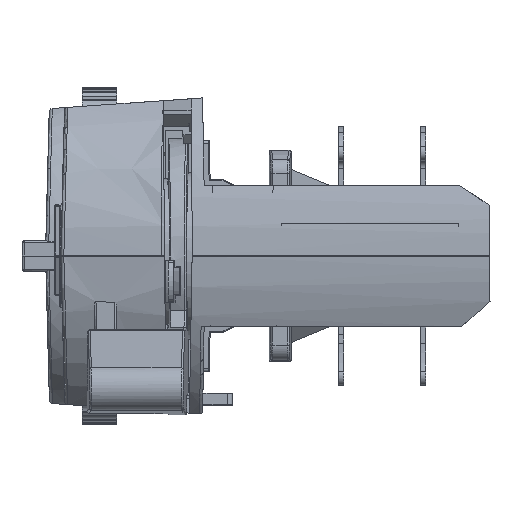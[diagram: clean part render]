
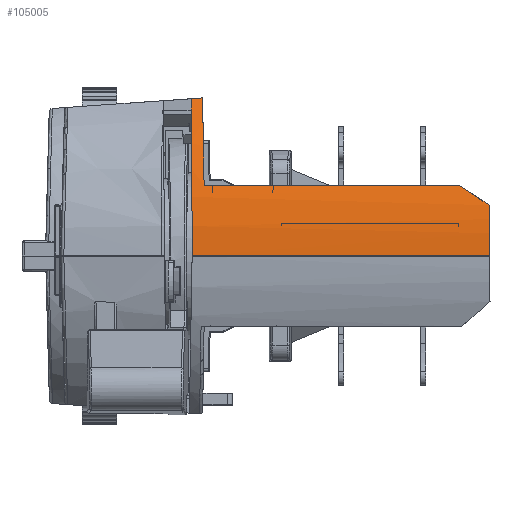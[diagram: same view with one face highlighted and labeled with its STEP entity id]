
A CAD part, left-side view. The second image highlights one B-rep face of the part: STEP entity #105005.
In plain terms, the highlighted cylindrical face has radius 20 mm (diameter 40 mm), a partial arc.
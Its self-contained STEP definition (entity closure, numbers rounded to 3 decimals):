
#101628=CARTESIAN_POINT('',(-124.6,-20.95,
0.));
#101629=CARTESIAN_POINT('',(-124.6,-20.945,
0.563));
#101630=CARTESIAN_POINT('',(-124.553,-20.935,
1.684));
#101631=CARTESIAN_POINT('',(-124.34,-20.921,
3.358));
#101632=CARTESIAN_POINT('',(-124.106,-20.911,
4.455));
#101633=CARTESIAN_POINT('',(-123.965,-20.906,
5.));
#101647=CARTESIAN_POINT('',(-117.264,8.435,
15.48));
#101648=CARTESIAN_POINT('',(-117.232,8.057,
15.506));
#101649=CARTESIAN_POINT('',(-117.199,7.678,
15.533));
#101650=CARTESIAN_POINT('',(-117.167,7.299,
15.559));
#101652=CARTESIAN_POINT('',(-117.167,7.299,
15.559));
#101653=CARTESIAN_POINT('',(-117.866,7.29,
14.994));
#101654=CARTESIAN_POINT('',(-119.176,7.268,
13.782));
#101655=CARTESIAN_POINT('',(-120.89,7.232,
11.707));
#101656=CARTESIAN_POINT('',(-122.309,7.192,
9.421));
#101657=CARTESIAN_POINT('',(-123.041,7.164,
7.793));
#101658=CARTESIAN_POINT('',(-123.354,7.149,
6.95));
#101660=DIRECTION('',(0.,-1.,0.));
#101661=VECTOR('',#101660,25.113);
#101662=CARTESIAN_POINT('',(-123.354,7.149,
6.95));
#101663=LINE('',#101662,#101661);
#101664=CARTESIAN_POINT('',(-123.354,-17.964,
6.95));
#101665=CARTESIAN_POINT('',(-123.593,-18.94,
6.303));
#101666=CARTESIAN_POINT('',(-123.796,-19.921,
5.653));
#101667=CARTESIAN_POINT('',(-123.965,-20.906,
5.));
#101669=DIRECTION('',(0.,1.,0.));
#101670=VECTOR('',#101669,29.25);
#101671=CARTESIAN_POINT('',(-124.6,-20.95,
0.));
#101672=LINE('',#101671,#101670);
#101722=CARTESIAN_POINT('',(-117.264,8.435,
15.48));
#101723=CARTESIAN_POINT('',(-117.92,8.43,
14.943));
#101724=CARTESIAN_POINT('',(-119.152,8.42,
13.797));
#101725=CARTESIAN_POINT('',(-120.778,8.403,
11.85));
#101726=CARTESIAN_POINT('',(-122.143,8.385,
9.716));
#101727=CARTESIAN_POINT('',(-123.228,8.365,
7.425));
#101728=CARTESIAN_POINT('',(-124.016,8.344,
5.018));
#101729=CARTESIAN_POINT('',(-124.493,8.322,
2.527));
#101730=CARTESIAN_POINT('',(-124.6,8.307,
0.847));
#101731=CARTESIAN_POINT('',(-124.6,8.3,
0.));
#103264=CARTESIAN_POINT('',(-123.354,7.149,
6.95));
#103265=VERTEX_POINT('',#103264);
#103266=VERTEX_POINT('',#101652);
#103336=CARTESIAN_POINT('',(-123.354,-17.964,
6.95));
#103337=VERTEX_POINT('',#103336);
#103504=CARTESIAN_POINT('',(-124.6,8.3,
0.));
#103505=VERTEX_POINT('',#103504);
#103506=CARTESIAN_POINT('',(-124.6,-20.95,
0.));
#103507=VERTEX_POINT('',#103506);
#103545=VERTEX_POINT('',#101633);
#103546=VERTEX_POINT('',#101722);
#104988=CARTESIAN_POINT('',(-104.6,14.8,0.));
#104989=DIRECTION('',(0.,-1.,0.));
#104990=DIRECTION('',(1.,0.,0.));
#104991=AXIS2_PLACEMENT_3D('',#104988,#104989,#104990);
#104992=CYLINDRICAL_SURFACE('',#104991,20.);
#104994=ORIENTED_EDGE('',*,*,#104993,.F.);
#104996=ORIENTED_EDGE('',*,*,#104995,.T.);
#104997=ORIENTED_EDGE('',*,*,#104053,.T.);
#104998=ORIENTED_EDGE('',*,*,#104180,.T.);
#105000=ORIENTED_EDGE('',*,*,#104999,.T.);
#105001=ORIENTED_EDGE('',*,*,#104979,.F.);
#105002=ORIENTED_EDGE('',*,*,#104829,.T.);
#105003=EDGE_LOOP('',(#104994,#104996,#104997,#104998,#105000,#105001,#105002));
#105004=FACE_OUTER_BOUND('',#105003,.F.);
#105005=ADVANCED_FACE('',(#105004),#104992,.T.);
#101634=B_SPLINE_CURVE_WITH_KNOTS('',3,(#101628,#101629,#101630,#101631,#101632,
#101633),.UNSPECIFIED.,.F.,.F.,(4,1,1,4),(0.,0.333,
0.667,1.),.UNSPECIFIED.);
#101651=B_SPLINE_CURVE_WITH_KNOTS('',3,(#101647,#101648,#101649,#101650),
.UNSPECIFIED.,.F.,.F.,(4,4),(0.,1.),.UNSPECIFIED.);
#101659=B_SPLINE_CURVE_WITH_KNOTS('',3,(#101652,#101653,#101654,#101655,#101656,
#101657,#101658),.UNSPECIFIED.,.F.,.F.,(4,1,1,1,4),(0.,0.25,0.5,0.75,
1.),.UNSPECIFIED.);
#101668=B_SPLINE_CURVE_WITH_KNOTS('',3,(#101664,#101665,#101666,#101667),
.UNSPECIFIED.,.F.,.F.,(4,4),(0.,1.),.UNSPECIFIED.);
#101732=B_SPLINE_CURVE_WITH_KNOTS('',3,(#101722,#101723,#101724,#101725,#101726,
#101727,#101728,#101729,#101730,#101731),.UNSPECIFIED.,.F.,.F.,(4,1,1,1,1,1,1,
4),(0.,0.143,0.286,0.429,
0.571,0.714,0.857,1.),.UNSPECIFIED.);
#104053=EDGE_CURVE('',#103266,#103265,#101659,.T.);
#104180=EDGE_CURVE('',#103265,#103337,#101663,.T.);
#104829=EDGE_CURVE('',#103507,#103505,#101672,.T.);
#104979=EDGE_CURVE('',#103507,#103545,#101634,.T.);
#104993=EDGE_CURVE('',#103546,#103505,#101732,.T.);
#104995=EDGE_CURVE('',#103546,#103266,#101651,.T.);
#104999=EDGE_CURVE('',#103337,#103545,#101668,.T.);
